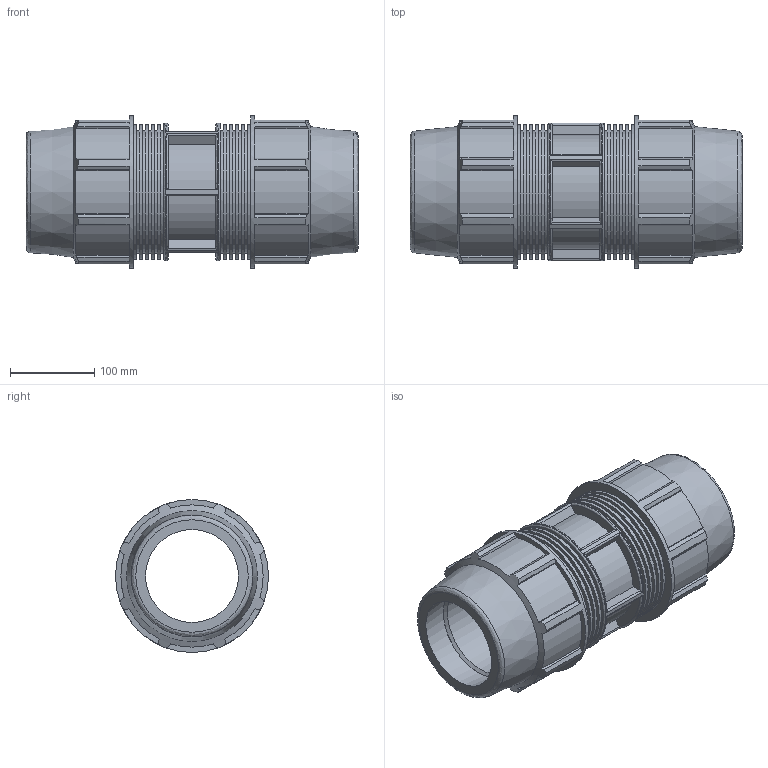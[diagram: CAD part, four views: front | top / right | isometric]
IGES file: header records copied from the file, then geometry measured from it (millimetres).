
Global section: file name: 0761061100A.ipt; native system: Autodesk Inventor 2015; preprocessor: unknown; author: KIM; date: 20170608.042732; units: millimetre
Bounding box: 393 x 181 x 181 mm (x, y, z)
Volume: 3823932.5 mm3; surface area: 463515.8 mm2
Topology: 1 solids, 1 shells, 212 faces, 551 edges, 370 vertices
Faces by surface type: plane 130, cylinder 57, revolution 21, cone 4
Full cylindrical faces by diameter (mm): 144.8 x10, 159.642 x10, 162.9 x1, 181 x2
